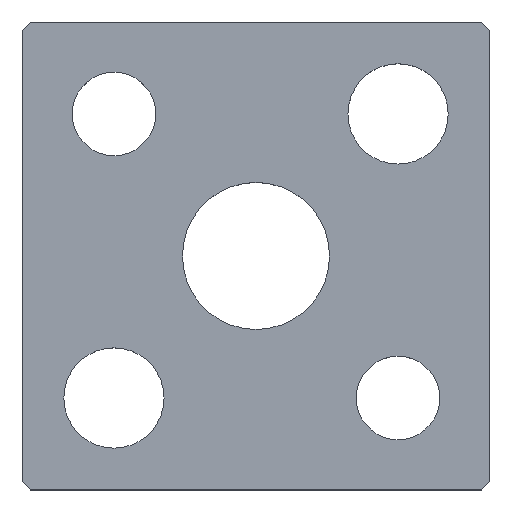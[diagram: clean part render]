
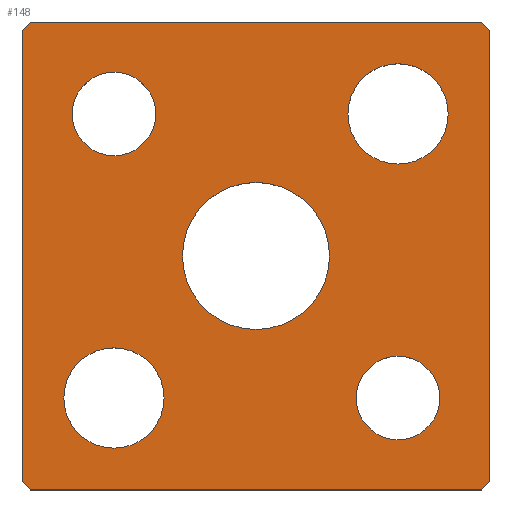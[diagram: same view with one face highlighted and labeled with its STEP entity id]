
A CAD part, top view. The second image highlights one B-rep face of the part: STEP entity #148.
In plain terms, the highlighted planar face has unit normal (0, 0, 1).
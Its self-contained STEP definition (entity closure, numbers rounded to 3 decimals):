
#117=CIRCLE('',#503,8.8);
#118=CIRCLE('',#504,8.8);
#119=CIRCLE('',#505,5.);
#120=CIRCLE('',#506,5.);
#121=CIRCLE('',#507,6.);
#122=CIRCLE('',#508,6.);
#123=CIRCLE('',#509,6.);
#124=CIRCLE('',#510,6.);
#125=CIRCLE('',#511,5.);
#126=CIRCLE('',#512,5.);
#133=FACE_BOUND('',#201,.T.);
#134=FACE_BOUND('',#202,.T.);
#135=FACE_BOUND('',#203,.T.);
#136=FACE_BOUND('',#204,.T.);
#137=FACE_BOUND('',#205,.T.);
#138=FACE_BOUND('',#206,.T.);
#148=ADVANCED_FACE('',(#133,#134,#135,#136,#137,#138),#168,.T.);
#168=PLANE('',#513);
#201=EDGE_LOOP('',(#267,#268,#269,#270,#271,#272,#273,#274));
#202=EDGE_LOOP('',(#275,#276));
#203=EDGE_LOOP('',(#277,#278));
#204=EDGE_LOOP('',(#279,#280));
#205=EDGE_LOOP('',(#281,#282));
#206=EDGE_LOOP('',(#283,#284));
#267=ORIENTED_EDGE('',*,*,#362,.T.);
#268=ORIENTED_EDGE('',*,*,#366,.T.);
#269=ORIENTED_EDGE('',*,*,#369,.T.);
#270=ORIENTED_EDGE('',*,*,#372,.T.);
#271=ORIENTED_EDGE('',*,*,#375,.T.);
#272=ORIENTED_EDGE('',*,*,#378,.T.);
#273=ORIENTED_EDGE('',*,*,#381,.T.);
#274=ORIENTED_EDGE('',*,*,#384,.T.);
#275=ORIENTED_EDGE('',*,*,#395,.T.);
#276=ORIENTED_EDGE('',*,*,#396,.T.);
#277=ORIENTED_EDGE('',*,*,#397,.T.);
#278=ORIENTED_EDGE('',*,*,#398,.T.);
#279=ORIENTED_EDGE('',*,*,#399,.T.);
#280=ORIENTED_EDGE('',*,*,#400,.T.);
#281=ORIENTED_EDGE('',*,*,#401,.T.);
#282=ORIENTED_EDGE('',*,*,#402,.T.);
#283=ORIENTED_EDGE('',*,*,#403,.T.);
#284=ORIENTED_EDGE('',*,*,#404,.T.);
#326=VERTEX_POINT('',#643);
#327=VERTEX_POINT('',#645);
#330=VERTEX_POINT('',#652);
#332=VERTEX_POINT('',#658);
#334=VERTEX_POINT('',#664);
#336=VERTEX_POINT('',#670);
#338=VERTEX_POINT('',#676);
#340=VERTEX_POINT('',#682);
#351=VERTEX_POINT('',#711);
#352=VERTEX_POINT('',#712);
#353=VERTEX_POINT('',#715);
#354=VERTEX_POINT('',#716);
#355=VERTEX_POINT('',#719);
#356=VERTEX_POINT('',#720);
#357=VERTEX_POINT('',#723);
#358=VERTEX_POINT('',#724);
#359=VERTEX_POINT('',#727);
#360=VERTEX_POINT('',#728);
#362=EDGE_CURVE('',#327,#326,#416,.T.);
#366=EDGE_CURVE('',#326,#330,#420,.T.);
#369=EDGE_CURVE('',#330,#332,#423,.T.);
#372=EDGE_CURVE('',#332,#334,#426,.T.);
#375=EDGE_CURVE('',#334,#336,#429,.T.);
#378=EDGE_CURVE('',#336,#338,#432,.T.);
#381=EDGE_CURVE('',#338,#340,#435,.T.);
#384=EDGE_CURVE('',#340,#327,#438,.T.);
#395=EDGE_CURVE('',#351,#352,#117,.T.);
#396=EDGE_CURVE('',#352,#351,#118,.T.);
#397=EDGE_CURVE('',#353,#354,#119,.T.);
#398=EDGE_CURVE('',#354,#353,#120,.T.);
#399=EDGE_CURVE('',#355,#356,#121,.T.);
#400=EDGE_CURVE('',#356,#355,#122,.T.);
#401=EDGE_CURVE('',#357,#358,#123,.T.);
#402=EDGE_CURVE('',#358,#357,#124,.T.);
#403=EDGE_CURVE('',#359,#360,#125,.T.);
#404=EDGE_CURVE('',#360,#359,#126,.T.);
#416=LINE('',#644,#450);
#420=LINE('',#653,#454);
#423=LINE('',#659,#457);
#426=LINE('',#665,#460);
#429=LINE('',#671,#463);
#432=LINE('',#677,#466);
#435=LINE('',#683,#469);
#438=LINE('',#687,#472);
#450=VECTOR('',#527,1.);
#454=VECTOR('',#533,1.);
#457=VECTOR('',#538,1.);
#460=VECTOR('',#543,1.);
#463=VECTOR('',#548,1.);
#466=VECTOR('',#553,1.);
#469=VECTOR('',#558,1.);
#472=VECTOR('',#563,1.);
#503=AXIS2_PLACEMENT_3D('',#710,#588,#589);
#504=AXIS2_PLACEMENT_3D('',#713,#590,#591);
#505=AXIS2_PLACEMENT_3D('',#714,#592,#593);
#506=AXIS2_PLACEMENT_3D('',#717,#594,#595);
#507=AXIS2_PLACEMENT_3D('',#718,#596,#597);
#508=AXIS2_PLACEMENT_3D('',#721,#598,#599);
#509=AXIS2_PLACEMENT_3D('',#722,#600,#601);
#510=AXIS2_PLACEMENT_3D('',#725,#602,#603);
#511=AXIS2_PLACEMENT_3D('',#726,#604,#605);
#512=AXIS2_PLACEMENT_3D('',#729,#606,#607);
#513=AXIS2_PLACEMENT_3D('',#730,#608,#609);
#527=DIRECTION('',(0.707,-0.707,0.));
#533=DIRECTION('',(1.,0.,0.));
#538=DIRECTION('',(0.707,0.707,0.));
#543=DIRECTION('',(0.,1.,0.));
#548=DIRECTION('',(-0.707,0.707,0.));
#553=DIRECTION('',(-1.,0.,0.));
#558=DIRECTION('',(-0.707,-0.707,0.));
#563=DIRECTION('',(0.,-1.,0.));
#588=DIRECTION('',(0.,0.,-1.));
#589=DIRECTION('',(-1.,0.,0.));
#590=DIRECTION('',(0.,0.,-1.));
#591=DIRECTION('',(1.,0.,0.));
#592=DIRECTION('',(0.,0.,-1.));
#593=DIRECTION('',(-1.,0.,0.));
#594=DIRECTION('',(0.,0.,-1.));
#595=DIRECTION('',(1.,0.,0.));
#596=DIRECTION('',(0.,0.,-1.));
#597=DIRECTION('',(-1.,0.,0.));
#598=DIRECTION('',(0.,0.,-1.));
#599=DIRECTION('',(1.,0.,0.));
#600=DIRECTION('',(0.,0.,-1.));
#601=DIRECTION('',(-1.,0.,0.));
#602=DIRECTION('',(0.,0.,-1.));
#603=DIRECTION('',(1.,0.,0.));
#604=DIRECTION('',(0.,0.,-1.));
#605=DIRECTION('',(-1.,0.,0.));
#606=DIRECTION('',(0.,0.,-1.));
#607=DIRECTION('',(1.,0.,0.));
#608=DIRECTION('',(0.,0.,1.));
#609=DIRECTION('',(0.,-1.,0.));
#643=CARTESIAN_POINT('',(-27.,-28.,5.));
#644=CARTESIAN_POINT('',(-28.,-27.,5.));
#645=CARTESIAN_POINT('',(-28.,-27.,5.));
#652=CARTESIAN_POINT('',(27.,-28.,5.));
#653=CARTESIAN_POINT('',(-27.,-28.,5.));
#658=CARTESIAN_POINT('',(28.,-27.,5.));
#659=CARTESIAN_POINT('',(28.,-27.,5.));
#664=CARTESIAN_POINT('',(28.,27.,5.));
#665=CARTESIAN_POINT('',(28.,27.,5.));
#670=CARTESIAN_POINT('',(27.,28.,5.));
#671=CARTESIAN_POINT('',(27.,28.,5.));
#676=CARTESIAN_POINT('',(-27.,28.,5.));
#677=CARTESIAN_POINT('',(-27.,28.,5.));
#682=CARTESIAN_POINT('',(-28.,27.,5.));
#683=CARTESIAN_POINT('',(-28.,27.,5.));
#687=CARTESIAN_POINT('',(-28.,27.,5.));
#710=CARTESIAN_POINT('',(0.,0.,5.));
#711=CARTESIAN_POINT('',(0.,8.8,5.));
#712=CARTESIAN_POINT('',(0.,-8.8,5.));
#713=CARTESIAN_POINT('',(0.,0.,5.));
#714=CARTESIAN_POINT('',(-17.,17.,5.));
#715=CARTESIAN_POINT('',(-17.,22.,5.));
#716=CARTESIAN_POINT('',(-17.,12.,5.));
#717=CARTESIAN_POINT('',(-17.,17.,5.));
#718=CARTESIAN_POINT('',(17.,17.,5.));
#719=CARTESIAN_POINT('',(17.,23.,5.));
#720=CARTESIAN_POINT('',(17.,11.,5.));
#721=CARTESIAN_POINT('',(17.,17.,5.));
#722=CARTESIAN_POINT('',(-17.,-17.,5.));
#723=CARTESIAN_POINT('',(-17.,-11.,5.));
#724=CARTESIAN_POINT('',(-17.,-23.,5.));
#725=CARTESIAN_POINT('',(-17.,-17.,5.));
#726=CARTESIAN_POINT('',(17.,-17.,5.));
#727=CARTESIAN_POINT('',(17.,-12.,5.));
#728=CARTESIAN_POINT('',(17.,-22.,5.));
#729=CARTESIAN_POINT('',(17.,-17.,5.));
#730=CARTESIAN_POINT('',(-28.,-27.,5.));
